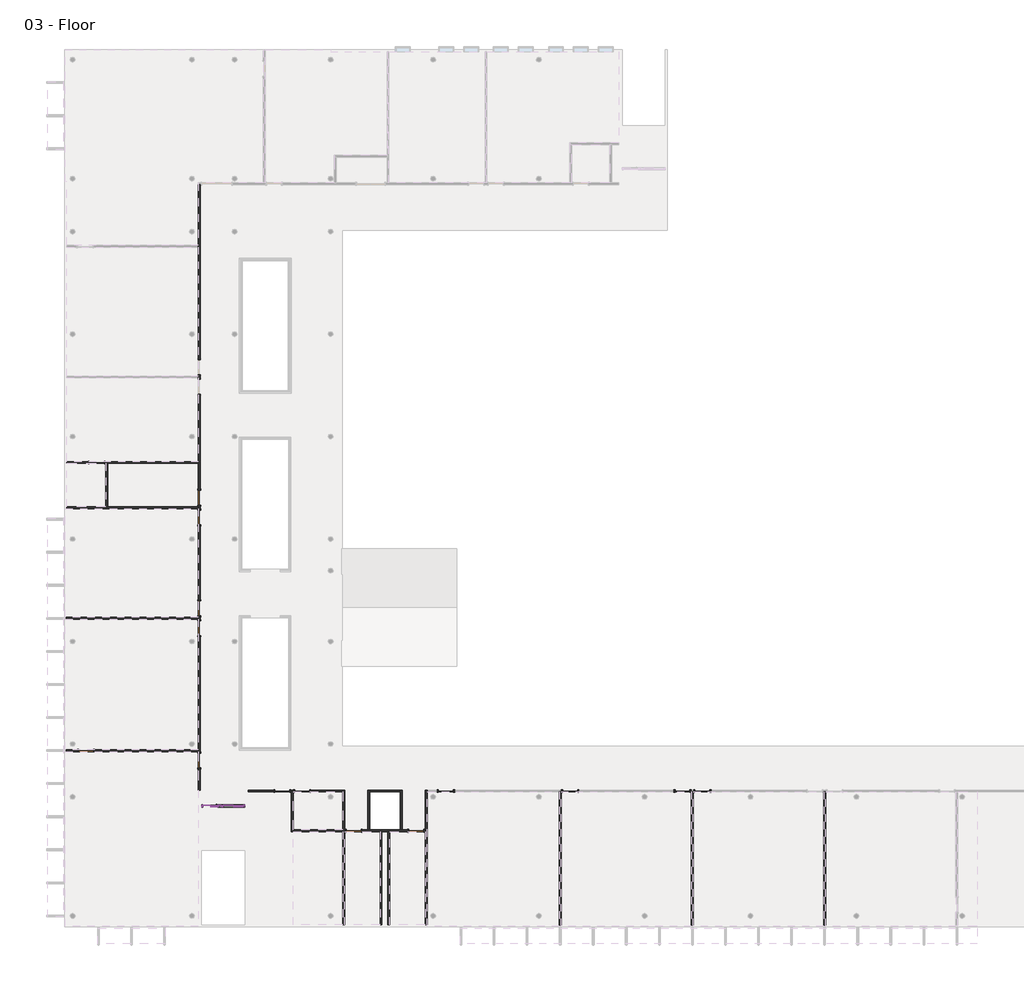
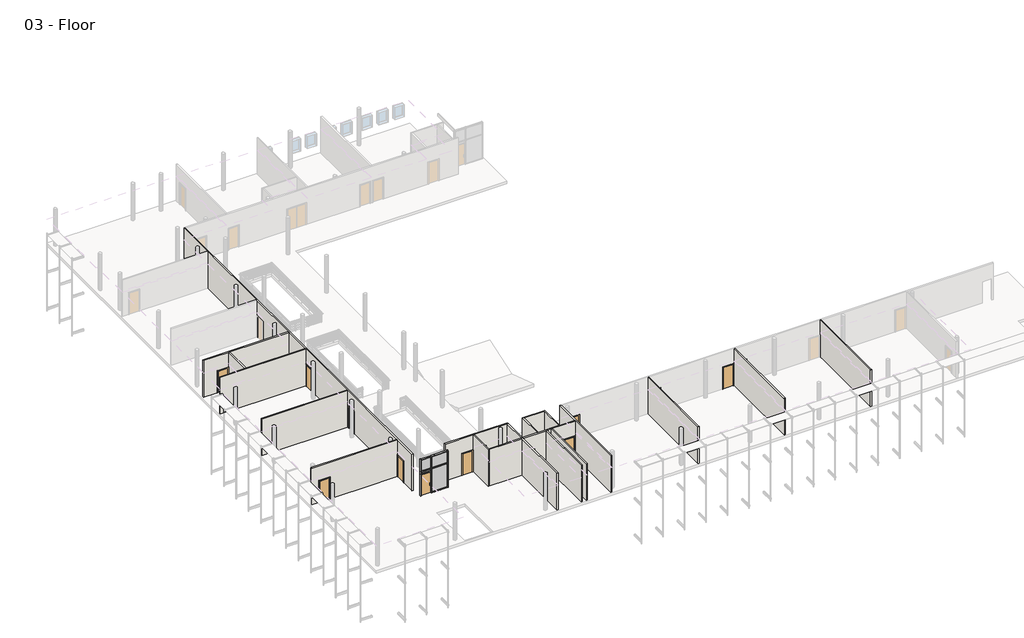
# One storey, part 1 of 4: 19 walls, 18 members, 16 doors, 4 plates.
"""IFC4 building model written with IfcOpenShell, lengths in millimetres."""

from ifc_helpers import new_model, si_unit, frame, origin, place, context, project, spatial, polyline, outline, extrude, faceted_brep, transform, mapped, element, save
from components import curtain_wall_sgl_glass_curtain_wall_sgl_glass_c2d4b377, door_305aa2a5, door_e5f9f3c4, member_2b49869a, member_75074519, member_6186cc23, member_5d67b9fc, member_c327c56d, member_a50b3cda, member_410c6227, member_73c23c35, member_59c53a79, member_c46932f7, member_40e8ea34, member_f5b3432e, system_panel_glazed_8dc8626f, system_panel_glazed_2e5f6ce9, system_panel_glazed_8d3e4aee, system_panel_glazed_fabe228a

model = new_model("IFC4")

# Units and contexts
model_context = context("Model", 3, world=origin())
ifc_project = project(units=[si_unit("LENGTHUNIT", "METRE", prefix="MILLI")], contexts=[model_context])

# Site, building, storey
site = spatial("IfcSite", under=ifc_project)
building = spatial("IfcBuilding", under=site)
storey = spatial("IfcBuildingStorey", under=building, Name="03 - Floor", Elevation=7315.2)

# Doors
placement = place(None, origin())
curtain_wall_sgl_glass_curtain_wall_sgl_glass_shape = curtain_wall_sgl_glass_curtain_wall_sgl_glass_c2d4b377(model_context)
element("IfcDoor", 1, ObjectType="Curtain Wall Sgl Glass : Curtain Wall Sgl Glass", at=placement, inside=storey, context=model_context, shape_type="MappedRepresentation", body=[
    mapped(curtain_wall_sgl_glass_curtain_wall_sgl_glass_shape, transform((9097.2957476, 7356.4, 7315.2), x_axis=(-1.0, 0.0, 0.0), y_axis=(0.0, -1.0, 0.0), z_axis=(0.0, 0.0, 1.0))),
])
door_shape = door_305aa2a5(model_context)
element("IfcDoor", 2, ObjectType="Single-Flush : 36\" x 84\"", at=placement, inside=storey, context=model_context, shape_type="MappedRepresentation", body=[
    mapped(door_shape, transform((21743.3207476, 5832.4, 7315.2), x_axis=(1.0, 0.0, 0.0), y_axis=(0.0, 1.0, 0.0), z_axis=(0.0, 0.0, 1.0))),
])
element("IfcDoor", 3, ObjectType="Single-Flush : 36\" x 84\"", at=placement, inside=storey, context=model_context, shape_type="MappedRepresentation", body=[
    mapped(door_shape, transform((2109.1207476, 28463.8, 7315.2), x_axis=(1.0, 0.0, 0.0), y_axis=(0.0, 1.0, 0.0), z_axis=(0.0, 0.0, 1.0))),
])
element("IfcDoor", 4, ObjectType="Single-Flush : 36\" x 84\"", at=placement, inside=storey, context=model_context, shape_type="MappedRepresentation", body=[
    mapped(door_shape, transform((8414.6707476, 26304.8, 7315.2), x_axis=(0.0, -1.0, 0.0), y_axis=(1.0, 0.0, 0.0), z_axis=(0.0, 0.0, 1.0))),
])
element("IfcDoor", 5, ObjectType="Single-Flush : 36\" x 84\"", at=placement, inside=storey, context=model_context, shape_type="MappedRepresentation", body=[
    mapped(door_shape, transform((8414.6707476, 19497.6, 7315.2), x_axis=(0.0, -1.0, 0.0), y_axis=(1.0, 0.0, 0.0), z_axis=(0.0, 0.0, 1.0))),
])
element("IfcDoor", 6, ObjectType="Single-Flush : 36\" x 84\"", at=placement, inside=storey, context=model_context, shape_type="MappedRepresentation", body=[
    mapped(door_shape, transform((13513.7207476, 8277.15, 7315.2), x_axis=(1.0, 0.0, 0.0), y_axis=(0.0, 1.0, 0.0), z_axis=(0.0, 0.0, 1.0))),
])
element("IfcDoor", 7, ObjectType="Single-Flush : 36\" x 84\"", at=placement, inside=storey, context=model_context, shape_type="MappedRepresentation", body=[
    mapped(door_shape, transform((38113.6207476, 8277.15, 7315.2), x_axis=(1.0, 0.0, 0.0), y_axis=(0.0, 1.0, 0.0), z_axis=(0.0, 0.0, 1.0))),
])
door_2_shape = door_e5f9f3c4(model_context)
element("IfcDoor", 8, ObjectType="Single-Flush : 36\" x 84\"", at=placement, inside=storey, context=model_context, shape_type="MappedRepresentation", body=[
    mapped(door_2_shape, transform((17907.9207476, 5832.4, 7315.2), x_axis=(-1.0, 0.0, 0.0), y_axis=(0.0, -1.0, 0.0), z_axis=(0.0, 0.0, 1.0))),
])
element("IfcDoor", 9, ObjectType="Single-Flush : 36\" x 84\"", at=placement, inside=storey, context=model_context, shape_type="MappedRepresentation", body=[
    mapped(door_2_shape, transform((8414.6707476, 25085.6, 7315.2), x_axis=(0.0, 1.0, 0.0), y_axis=(-1.0, 0.0, 0.0), z_axis=(0.0, 0.0, 1.0))),
])
element("IfcDoor", 10, ObjectType="Single-Flush : 36\" x 84\"", at=placement, inside=storey, context=model_context, shape_type="MappedRepresentation", body=[
    mapped(door_2_shape, transform((8414.6707476, 18278.4, 7315.2), x_axis=(0.0, 1.0, 0.0), y_axis=(-1.0, 0.0, 0.0), z_axis=(0.0, 0.0, 1.0))),
])
element("IfcDoor", 11, ObjectType="Single-Flush : 36\" x 84\"", at=placement, inside=storey, context=model_context, shape_type="MappedRepresentation", body=[
    mapped(door_2_shape, transform((1448.7207476, 10760.0, 7315.2), x_axis=(-1.0, 0.0, 0.0), y_axis=(0.0, -1.0, 0.0), z_axis=(0.0, 0.0, 1.0))),
])
element("IfcDoor", 12, ObjectType="Single-Flush : 36\" x 84\"", at=placement, inside=storey, context=model_context, shape_type="MappedRepresentation", body=[
    mapped(door_2_shape, transform((8414.6707476, 10150.4, 7315.2), x_axis=(0.0, 1.0, 0.0), y_axis=(-1.0, 0.0, 0.0), z_axis=(0.0, 0.0, 1.0))),
])
element("IfcDoor", 13, ObjectType="Single-Flush : 36\" x 84\"", at=placement, inside=storey, context=model_context, shape_type="MappedRepresentation", body=[
    mapped(door_2_shape, transform((14732.9207476, 8277.15, 7315.2), x_axis=(-1.0, 0.0, 0.0), y_axis=(0.0, -1.0, 0.0), z_axis=(0.0, 0.0, 1.0))),
])
element("IfcDoor", 14, ObjectType="Single-Flush : 36\" x 84\"", at=placement, inside=storey, context=model_context, shape_type="MappedRepresentation", body=[
    mapped(door_2_shape, transform((23572.1207476, 8277.15, 7315.2), x_axis=(-1.0, 0.0, 0.0), y_axis=(0.0, -1.0, 0.0), z_axis=(0.0, 0.0, 1.0))),
])
element("IfcDoor", 15, ObjectType="Single-Flush : 36\" x 84\"", at=placement, inside=storey, context=model_context, shape_type="MappedRepresentation", body=[
    mapped(door_2_shape, transform((31204.8207476, 8277.15, 7315.2), x_axis=(-1.0, 0.0, 0.0), y_axis=(0.0, -1.0, 0.0), z_axis=(0.0, 0.0, 1.0))),
])
element("IfcDoor", 16, ObjectType="Single-Flush : 36\" x 84\"", at=placement, inside=storey, context=model_context, shape_type="MappedRepresentation", body=[
    mapped(door_2_shape, transform((39332.8207476, 8277.15, 7315.2), x_axis=(-1.0, 0.0, 0.0), y_axis=(0.0, -1.0, 0.0), z_axis=(0.0, 0.0, 1.0))),
])

# Members
member_shape = member_2b49869a(model_context)
element("IfcMember", 17, ObjectType="Rectangular Mullion : 2.5\" x 5\" rectangular", at=placement, inside=storey, context=model_context, shape_type="MappedRepresentation", body=[
    mapped(member_shape, transform((9586.2457476, 7356.4, 9753.6), x_axis=(-1.0, 0.0, 0.0), y_axis=(0.0, 1.0, 0.0), z_axis=(0.0, 0.0, -1.0))),
])
member_2_shape = member_75074519(model_context)
element("IfcMember", 18, ObjectType="Rectangular Mullion : 2.5\" x 5\" rectangular", at=placement, inside=storey, context=model_context, shape_type="MappedRepresentation", body=[
    mapped(member_2_shape, transform((11194.3832476, 7356.4, 10972.8), x_axis=(1.0, 0.0, 0.0), y_axis=(0.0, 1.0, 0.0), z_axis=(0.0, 0.0, 1.0))),
])
element("IfcMember", 19, ObjectType="Rectangular Mullion : 2.5\" x 5\" rectangular", at=placement, inside=storey, context=model_context, shape_type="MappedRepresentation", body=[
    mapped(member_2_shape, transform((8576.5957476, 7356.4, 9753.6), x_axis=(-1.0, 0.0, 0.0), y_axis=(0.0, 1.0, 0.0), z_axis=(0.0, 0.0, -1.0))),
])
member_3_shape = member_6186cc23(model_context)
element("IfcMember", 20, ObjectType="Rectangular Mullion : 2.5\" x 5\" rectangular", at=placement, inside=storey, context=model_context, shape_type="MappedRepresentation", body=[
    mapped(member_3_shape, transform((9586.2457476, 7356.4, 7315.2), x_axis=(-1.0, 0.0, 0.0), y_axis=(0.0, 1.0, 0.0), z_axis=(0.0, 0.0, -1.0))),
])
member_4_shape = member_5d67b9fc(model_context)
element("IfcMember", 21, ObjectType="Rectangular Mullion : 2.5\" x 5\" rectangular", at=placement, inside=storey, context=model_context, shape_type="MappedRepresentation", body=[
    mapped(member_4_shape, transform((9586.2457476, 7356.4, 9480.55), x_axis=(-1.0, 0.0, 0.0), y_axis=(0.0, 1.0, 0.0), z_axis=(0.0, 0.0, -1.0))),
])
member_5_shape = member_c327c56d(model_context)
element("IfcMember", 22, ObjectType="Rectangular Mullion : 2.5\" x 5\" rectangular", at=placement, inside=storey, context=model_context, shape_type="MappedRepresentation", body=[
    mapped(member_5_shape, transform((11194.3832476, 7356.4, 9753.6), x_axis=(1.0, 0.0, 0.0), y_axis=(0.0, 1.0, 0.0), z_axis=(0.0, 0.0, 1.0))),
])
member_6_shape = member_a50b3cda(model_context)
element("IfcMember", 23, ObjectType="Rectangular Mullion : 2.5\" x 5\" rectangular", at=placement, inside=storey, context=model_context, shape_type="MappedRepresentation", body=[
    mapped(member_6_shape, transform((11194.3832476, 7356.4, 9480.55), x_axis=(1.0, 0.0, 0.0), y_axis=(0.0, 1.0, 0.0), z_axis=(0.0, 0.0, 1.0))),
])
member_7_shape = member_410c6227(model_context)
element("IfcMember", 24, ObjectType="Rectangular Mullion : 2.5\" x 5\" rectangular", at=placement, inside=storey, context=model_context, shape_type="MappedRepresentation", body=[
    mapped(member_7_shape, transform((8640.0957476, 7356.4, 9753.6), x_axis=(0.0, 0.0, 1.0), y_axis=(0.0, 1.0, 0.0), z_axis=(-1.0, 0.0, 0.0))),
])
element("IfcMember", 25, ObjectType="Rectangular Mullion : 2.5\" x 5\" rectangular", at=placement, inside=storey, context=model_context, shape_type="MappedRepresentation", body=[
    mapped(member_7_shape, transform((8640.0957476, 7356.4, 9480.55), x_axis=(0.0, 0.0, 1.0), y_axis=(0.0, 1.0, 0.0), z_axis=(-1.0, 0.0, 0.0))),
])
member_8_shape = member_73c23c35(model_context)
element("IfcMember", 26, ObjectType="Rectangular Mullion : 2.5\" x 5\" rectangular", at=placement, inside=storey, context=model_context, shape_type="MappedRepresentation", body=[
    mapped(member_8_shape, transform((8640.0957476, 7356.4, 10972.8), x_axis=(0.0, 0.0, 1.0), y_axis=(0.0, 1.0, 0.0), z_axis=(-1.0, 0.0, 0.0))),
])
element("IfcMember", 27, ObjectType="Rectangular Mullion : 2.5\" x 5\" rectangular", at=placement, inside=storey, context=model_context, shape_type="MappedRepresentation", body=[
    mapped(member_6_shape, transform((8576.5957476, 7356.4, 7315.2), x_axis=(-1.0, 0.0, 0.0), y_axis=(0.0, 1.0, 0.0), z_axis=(0.0, 0.0, -1.0))),
])
element("IfcMember", 28, ObjectType="Rectangular Mullion : 2.5\" x 5\" rectangular", at=placement, inside=storey, context=model_context, shape_type="MappedRepresentation", body=[
    mapped(member_5_shape, transform((8576.5957476, 7356.4, 9480.55), x_axis=(-1.0, 0.0, 0.0), y_axis=(0.0, 1.0, 0.0), z_axis=(0.0, 0.0, -1.0))),
])
member_9_shape = member_59c53a79(model_context)
element("IfcMember", 29, ObjectType="Rectangular Mullion : 2.5\" x 5\" rectangular", at=placement, inside=storey, context=model_context, shape_type="MappedRepresentation", body=[
    mapped(member_9_shape, transform((11130.8832476, 7356.4, 7315.2), x_axis=(0.0, 0.0, -1.0), y_axis=(0.0, 1.0, 0.0), z_axis=(1.0, 0.0, 0.0))),
])
member_10_shape = member_c46932f7(model_context)
element("IfcMember", 30, ObjectType="Rectangular Mullion : 2.5\" x 5\" rectangular", at=placement, inside=storey, context=model_context, shape_type="MappedRepresentation", body=[
    mapped(member_10_shape, transform((9885.4894976, 7356.4, 9753.6), x_axis=(0.0, 0.0, 1.0), y_axis=(0.0, 1.0, 0.0), z_axis=(-1.0, 0.0, 0.0))),
])
element("IfcMember", 31, ObjectType="Rectangular Mullion : 2.5\" x 5\" rectangular", at=placement, inside=storey, context=model_context, shape_type="MappedRepresentation", body=[
    mapped(member_9_shape, transform((9885.4894976, 7356.4, 10972.8), x_axis=(0.0, 0.0, 1.0), y_axis=(0.0, 1.0, 0.0), z_axis=(-1.0, 0.0, 0.0))),
])
member_11_shape = member_40e8ea34(model_context)
element("IfcMember", 32, ObjectType="Rectangular Mullion : 2.5\" x 5\" rectangular", at=placement, inside=storey, context=model_context, shape_type="MappedRepresentation", body=[
    mapped(member_11_shape, transform((9617.9957476, 7356.4, 9753.6), x_axis=(0.0, 0.0, 1.0), y_axis=(0.0, 1.0, 0.0), z_axis=(-1.0, 0.0, 0.0))),
])
member_12_shape = member_f5b3432e(model_context)
element("IfcMember", 33, ObjectType="Rectangular Mullion : 2.5\" x 5\" rectangular", at=placement, inside=storey, context=model_context, shape_type="MappedRepresentation", body=[
    mapped(member_12_shape, transform((9617.9957476, 7356.4, 10972.8), x_axis=(0.0, 0.0, 1.0), y_axis=(0.0, 1.0, 0.0), z_axis=(-1.0, 0.0, 0.0))),
])
element("IfcMember", 34, ObjectType="Rectangular Mullion : 2.5\" x 5\" rectangular", at=placement, inside=storey, context=model_context, shape_type="MappedRepresentation", body=[
    mapped(member_12_shape, transform((9885.4894976, 7356.4, 7315.2), x_axis=(0.0, 0.0, -1.0), y_axis=(0.0, 1.0, 0.0), z_axis=(1.0, 0.0, 0.0))),
])

# Plates
system_panel_glazed_shape = system_panel_glazed_8dc8626f(model_context)
element("IfcPlate", 35, ObjectType="System Panel : Glazed", at=placement, inside=storey, context=model_context, shape_type="MappedRepresentation", body=[
    mapped(system_panel_glazed_shape, transform((9097.2957476, 7356.4, 9512.3), x_axis=(-1.0, 0.0, 0.0), y_axis=(0.0, -1.0, 0.0), z_axis=(0.0, 0.0, 1.0))),
])
system_panel_glazed_2_shape = system_panel_glazed_2e5f6ce9(model_context)
element("IfcPlate", 36, ObjectType="System Panel : Glazed", at=placement, inside=storey, context=model_context, shape_type="MappedRepresentation", body=[
    mapped(system_panel_glazed_2_shape, transform((9097.2957476, 7356.4, 9785.35), x_axis=(-1.0, 0.0, 0.0), y_axis=(0.0, -1.0, 0.0), z_axis=(0.0, 0.0, 1.0))),
])
system_panel_glazed_3_shape = system_panel_glazed_8d3e4aee(model_context)
element("IfcPlate", 37, ObjectType="System Panel : Glazed", at=placement, inside=storey, context=model_context, shape_type="MappedRepresentation", body=[
    mapped(system_panel_glazed_3_shape, transform((10374.4394976, 7356.4, 7378.7), x_axis=(-1.0, 0.0, 0.0), y_axis=(0.0, -1.0, 0.0), z_axis=(0.0, 0.0, 1.0))),
])
system_panel_glazed_4_shape = system_panel_glazed_fabe228a(model_context)
element("IfcPlate", 38, ObjectType="System Panel : Glazed", at=placement, inside=storey, context=model_context, shape_type="MappedRepresentation", body=[
    mapped(system_panel_glazed_4_shape, transform((10374.4394976, 7356.4, 9785.35), x_axis=(-1.0, 0.0, 0.0), y_axis=(0.0, -1.0, 0.0), z_axis=(0.0, 0.0, 1.0))),
])

# Walls
element("IfcWall", 39, ObjectType="Typ. Partition Wall", at=placement, inside=storey, context=model_context, shape_type="Brep", body=[
    faceted_brep([(8357.5207476, 17821.2, 7315.2), (8357.5207476, 10817.15, 7315.2), (8357.5207476, 10702.85, 7315.2), (8357.5207476, 10607.6, 7315.2), (8357.5207476, 10607.6, 9448.8), (8357.5207476, 9693.2, 9448.8), (8357.5207476, 9693.2, 7315.2), (8357.5207476, 8334.3, 7315.2), (8357.5207476, 8334.3, 10972.8), (8357.5207476, 10702.85, 10972.8), (8357.5207476, 10817.15, 10972.8), (8357.5207476, 18830.85, 10972.8), (8357.5207476, 18945.15, 10972.8), (8357.5207476, 25638.05, 10972.8), (8357.5207476, 25752.35, 10972.8), (8357.5207476, 28406.65, 10972.8), (8357.5207476, 28520.95, 10972.8), (8357.5207476, 33664.45, 10972.8), (8357.5207476, 33778.75, 10972.8), (8357.5207476, 41690.85, 10972.8), (8357.5207476, 41805.15, 10972.8), (8357.5207476, 45545.3, 10972.8), (8357.5207476, 45545.3, 7315.2), (8357.5207476, 41805.15, 7315.2), (8357.5207476, 41690.85, 7315.2), (8357.5207476, 34788.4, 7315.2), (8357.5207476, 34788.4, 9448.8), (8357.5207476, 33874.0, 9448.8), (8357.5207476, 33874.0, 7315.2), (8357.5207476, 33778.75, 7315.2), (8357.5207476, 33664.45, 7315.2), (8357.5207476, 33569.2, 7315.2), (8357.5207476, 33569.2, 9448.8), (8357.5207476, 32654.8, 9448.8), (8357.5207476, 32654.8, 7315.2), (8357.5207476, 28520.95, 7315.2), (8357.5207476, 28406.65, 7315.2), (8357.5207476, 26762.0, 7315.2), (8357.5207476, 26762.0, 9448.8), (8357.5207476, 25847.6, 9448.8), (8357.5207476, 25847.6, 7315.2), (8357.5207476, 25752.35, 7315.2), (8357.5207476, 25638.05, 7315.2), (8357.5207476, 25542.8, 7315.2), (8357.5207476, 25542.8, 9448.8), (8357.5207476, 24628.4, 9448.8), (8357.5207476, 24628.4, 7315.2), (8357.5207476, 19954.8, 7315.2), (8357.5207476, 19954.8, 9448.8), (8357.5207476, 19040.4, 9448.8), (8357.5207476, 19040.4, 7315.2), (8357.5207476, 18945.15, 7315.2), (8357.5207476, 18830.85, 7315.2), (8357.5207476, 18735.6, 7315.2), (8357.5207476, 18735.6, 9448.8), (8357.5207476, 17821.2, 9448.8), (8471.8207476, 10607.6, 9448.8), (8471.8207476, 10607.6, 7315.2), (8471.8207476, 17821.2, 7315.2), (8471.8207476, 17821.2, 9448.8), (8471.8207476, 18735.6, 9448.8), (8471.8207476, 18735.6, 7315.2), (8471.8207476, 19040.4, 7315.2), (8471.8207476, 19040.4, 9448.8), (8471.8207476, 19954.8, 9448.8), (8471.8207476, 19954.8, 7315.2), (8471.8207476, 24628.4, 7315.2), (8471.8207476, 24628.4, 9448.8), (8471.8207476, 25542.8, 9448.8), (8471.8207476, 25542.8, 7315.2), (8471.8207476, 25847.6, 7315.2), (8471.8207476, 25847.6, 9448.8), (8471.8207476, 26762.0, 9448.8), (8471.8207476, 26762.0, 7315.2), (8471.8207476, 32654.8, 7315.2), (8471.8207476, 32654.8, 9448.8), (8471.8207476, 33569.2, 9448.8), (8471.8207476, 33569.2, 7315.2), (8471.8207476, 33874.0, 7315.2), (8471.8207476, 33874.0, 9448.8), (8471.8207476, 34788.4, 9448.8), (8471.8207476, 34788.4, 7315.2), (8471.8207476, 45545.3, 7315.2), (8471.8207476, 45545.3, 10972.8), (8471.8207476, 8334.3, 10972.8), (8471.8207476, 8334.3, 7315.2), (8471.8207476, 9693.2, 7315.2), (8471.8207476, 9693.2, 9448.8)], [[[0, 1, 2, 3, 4, 5, 6, 7, 8, 9, 10, 11, 12, 13, 14, 15, 16, 17, 18, 19, 20, 21, 22, 23, 24, 25, 26, 27, 28, 29, 30, 31, 32, 33, 34, 35, 36, 37, 38, 39, 40, 41, 42, 43, 44, 45, 46, 47, 48, 49, 50, 51, 52, 53, 54, 55]], [[56, 57, 58, 59, 60, 61, 62, 63, 64, 65, 66, 67, 68, 69, 70, 71, 72, 73, 74, 75, 76, 77, 78, 79, 80, 81, 82, 83, 84, 85, 86, 87]], [[78, 77, 31, 30, 29, 28]], [[25, 24, 23, 22, 82, 81]], [[70, 69, 43, 42, 41, 40]], [[37, 36, 35, 34, 74, 73]], [[62, 61, 53, 52, 51, 50]], [[47, 46, 66, 65]], [[58, 57, 3, 2, 1, 0]], [[86, 85, 7, 6]], [[8, 7, 85, 84]], [[21, 20, 19, 18, 17, 16, 15, 14, 13, 12, 11, 10, 9, 8, 84, 83]], [[22, 21, 83, 82]], [[79, 78, 28, 27]], [[80, 79, 27, 26]], [[81, 80, 26, 25]], [[32, 31, 77, 76]], [[33, 32, 76, 75]], [[34, 33, 75, 74]], [[71, 70, 40, 39]], [[72, 71, 39, 38]], [[73, 72, 38, 37]], [[44, 43, 69, 68]], [[45, 44, 68, 67]], [[46, 45, 67, 66]], [[63, 62, 50, 49]], [[64, 63, 49, 48]], [[65, 64, 48, 47]], [[54, 53, 61, 60]], [[55, 54, 60, 59]], [[0, 55, 59, 58]], [[4, 3, 57, 56]], [[5, 4, 56, 87]], [[6, 5, 87, 86]]]),
])
element("IfcWall", 40, ObjectType="Typ. Partition Wall", at=placement, inside=storey, context=model_context, shape_type="Brep", body=[
    faceted_brep([(13970.9207476, 8220.0, 7315.2), (14066.1707476, 8220.0, 7315.2), (14180.4707476, 8220.0, 7315.2), (14275.7207476, 8220.0, 7315.2), (14275.7207476, 8220.0, 9448.8), (15190.1207476, 8220.0, 9448.8), (15190.1207476, 8220.0, 7315.2), (17241.1707476, 8220.0, 7315.2), (17355.4707476, 8220.0, 7315.2), (17355.4707476, 8220.0, 10972.8), (17241.1707476, 8220.0, 10972.8), (14180.4707476, 8220.0, 10972.8), (14066.1707476, 8220.0, 10972.8), (11413.4582476, 8220.0, 10972.8), (11413.4582476, 8220.0, 7315.2), (13056.5207476, 8220.0, 7315.2), (13056.5207476, 8220.0, 9448.8), (13970.9207476, 8220.0, 9448.8), (14275.7207476, 8334.3, 9448.8), (14275.7207476, 8334.3, 7315.2), (13970.9207476, 8334.3, 7315.2), (13970.9207476, 8334.3, 9448.8), (13056.5207476, 8334.3, 9448.8), (13056.5207476, 8334.3, 7315.2), (11413.4582476, 8334.3, 7315.2), (11413.4582476, 8334.3, 10972.8), (17355.4707476, 8334.3, 10972.8), (17355.4707476, 8334.3, 7315.2), (15190.1207476, 8334.3, 7315.2), (15190.1207476, 8334.3, 9448.8)], [[[0, 1, 2, 3, 4, 5, 6, 7, 8, 9, 10, 11, 12, 13, 14, 15, 16, 17]], [[18, 19, 20, 21, 22, 23, 24, 25, 26, 27, 28, 29]], [[20, 19, 3, 2, 1, 0]], [[15, 14, 24, 23]], [[28, 27, 8, 7, 6]], [[13, 12, 11, 10, 9, 26, 25]], [[14, 13, 25, 24]], [[9, 8, 27, 26]], [[21, 20, 0, 17]], [[22, 21, 17, 16]], [[23, 22, 16, 15]], [[4, 3, 19, 18]], [[5, 4, 18, 29]], [[6, 5, 29, 28]]]),
])
element("IfcWall", 41, ObjectType="Typ. Partition Wall", at=placement, inside=storey, context=model_context, shape_type="Brep", body=[
    faceted_brep([(14180.4707476, 5775.25, 7315.2), (14180.4707476, 5889.55, 7315.2), (14180.4707476, 8220.0, 7315.2), (14180.4707476, 8220.0, 10972.8), (14180.4707476, 5889.55, 10972.8), (14180.4707476, 5775.25, 10972.8), (14066.1707476, 5775.25, 7315.2), (14066.1707476, 5775.25, 10972.8), (14066.1707476, 8220.0, 10972.8), (14066.1707476, 8220.0, 7315.2)], [[[0, 1, 2, 3, 4, 5]], [[6, 7, 8, 9]], [[2, 1, 0, 6, 9]], [[5, 4, 3, 8, 7]], [[0, 5, 7, 6]], [[3, 2, 9, 8]]]),
])
element("IfcWall", 42, ObjectType="Typ. Partition Wall", at=placement, inside=storey, context=model_context, shape_type="Brep", body=[
    faceted_brep([(17355.4707476, 53.9, 7315.2), (17355.4707476, 5775.25, 7315.2), (17355.4707476, 5889.55, 7315.2), (17355.4707476, 8220.0, 7315.2), (17355.4707476, 8220.0, 10972.8), (17355.4707476, 5889.55, 10972.8), (17355.4707476, 5775.25, 10972.8), (17355.4707476, 53.9, 10972.8), (17241.1707476, 53.9, 7315.2), (17241.1707476, 53.9, 10972.8), (17241.1707476, 5775.25, 10972.8), (17241.1707476, 5889.55, 10972.8), (17241.1707476, 8220.0, 10972.8), (17241.1707476, 8220.0, 7315.2), (17241.1707476, 5889.55, 7315.2), (17241.1707476, 5775.25, 7315.2)], [[[0, 1, 2, 3, 4, 5, 6, 7]], [[8, 9, 10, 11, 12, 13, 14, 15]], [[3, 2, 1, 0, 8, 15, 14, 13]], [[7, 6, 5, 4, 12, 11, 10, 9]], [[0, 7, 9, 8]], [[4, 3, 13, 12]]]),
])
element("IfcWall", 43, ObjectType="Typ. Partition Wall", at=placement, inside=storey, context=model_context, shape_type="Brep", body=[
    faceted_brep([(22308.4707476, 5775.25, 7315.2), (22308.4707476, 5775.25, 10972.8), (20124.0707476, 5775.25, 10972.8), (20009.7707476, 5775.25, 10972.8), (19641.4707476, 5775.25, 10972.8), (19527.1707476, 5775.25, 10972.8), (17355.4707476, 5775.25, 10972.8), (17355.4707476, 5775.25, 7315.2), (17450.7207476, 5775.25, 7315.2), (17450.7207476, 5775.25, 9448.8), (18365.1207476, 5775.25, 9448.8), (18365.1207476, 5775.25, 7315.2), (19527.1707476, 5775.25, 7315.2), (19641.4707476, 5775.25, 7315.2), (20009.7707476, 5775.25, 7315.2), (20124.0707476, 5775.25, 7315.2), (21286.1207476, 5775.25, 7315.2), (21286.1207476, 5775.25, 9448.8), (22200.5207476, 5775.25, 9448.8), (22200.5207476, 5775.25, 7315.2), (22308.4707476, 5889.55, 10972.8), (22308.4707476, 5889.55, 7315.2), (22200.5207476, 5889.55, 7315.2), (22200.5207476, 5889.55, 9448.8), (21286.1207476, 5889.55, 9448.8), (21286.1207476, 5889.55, 7315.2), (20886.0707476, 5889.55, 7315.2), (20771.7707476, 5889.55, 7315.2), (18879.4707476, 5889.55, 7315.2), (18765.1707476, 5889.55, 7315.2), (18365.1207476, 5889.55, 7315.2), (18365.1207476, 5889.55, 9448.8), (17450.7207476, 5889.55, 9448.8), (17450.7207476, 5889.55, 7315.2), (17355.4707476, 5889.55, 7315.2), (17355.4707476, 5889.55, 10972.8), (18765.1707476, 5889.55, 10972.8), (18879.4707476, 5889.55, 10972.8), (20771.7707476, 5889.55, 10972.8), (20886.0707476, 5889.55, 10972.8)], [[[0, 1, 2, 3, 4, 5, 6, 7, 8, 9, 10, 11, 12, 13, 14, 15, 16, 17, 18, 19]], [[20, 21, 22, 23, 24, 25, 26, 27, 28, 29, 30, 31, 32, 33, 34, 35, 36, 37, 38, 39]], [[21, 0, 19, 22]], [[33, 8, 7, 34]], [[11, 30, 29, 28, 27, 26, 25, 16, 15, 14, 13, 12]], [[1, 20, 39, 38, 37, 36, 35, 6, 5, 4, 3, 2]], [[1, 0, 21, 20]], [[9, 8, 33, 32]], [[10, 9, 32, 31]], [[11, 10, 31, 30]], [[23, 22, 19, 18]], [[24, 23, 18, 17]], [[25, 24, 17, 16]], [[7, 6, 35, 34]]]),
    faceted_brep([(14180.4707476, 5775.25, 10972.8), (14180.4707476, 5775.25, 7315.2), (17241.1707476, 5775.25, 7315.2), (17241.1707476, 5775.25, 10972.8), (14180.4707476, 5889.55, 7315.2), (14180.4707476, 5889.55, 10972.8), (17241.1707476, 5889.55, 10972.8), (17241.1707476, 5889.55, 7315.2)], [[[0, 1, 2, 3]], [[4, 5, 6, 7]], [[1, 4, 7, 2]], [[5, 0, 3, 6]], [[1, 0, 5, 4]], [[3, 2, 7, 6]]]),
])
element("IfcWall", 44, ObjectType="Typ. Partition Wall", at=placement, inside=storey, context=model_context, shape_type="SweptSolid", body=[
    extrude(outline(polyline([(19527.1707476, 53.9), (19527.1707476, 5775.25), (19641.4707476, 5775.25), (19641.4707476, 53.9), (19527.1707476, 53.9)])), frame((0.0, 0.0, 7315.2), z_axis=(0.0, 0.0, 1.0), x_axis=(1.0, 0.0, 0.0)), (0.0, 0.0, 1.0), 3657.6),
])
element("IfcWall", 45, ObjectType="Typ. Partition Wall", at=placement, inside=storey, context=model_context, shape_type="SweptSolid", body=[
    extrude(outline(polyline([(20009.7707476, 53.9), (20009.7707476, 5775.25), (20124.0707476, 5775.25), (20124.0707476, 53.9), (20009.7707476, 53.9)])), frame((0.0, 0.0, 7315.2), z_axis=(0.0, 0.0, 1.0), x_axis=(1.0, 0.0, 0.0)), (0.0, 0.0, 1.0), 3657.6),
])
element("IfcWall", 46, ObjectType="Typ. Partition Wall", at=placement, inside=storey, context=model_context, shape_type="Brep", body=[
    faceted_brep([(18879.4707476, 5889.55, 7315.2), (18879.4707476, 8220.0, 7315.2), (18879.4707476, 8334.3, 7315.2), (18879.4707476, 8334.3, 10972.8), (18879.4707476, 8220.0, 10972.8), (18879.4707476, 5889.55, 10972.8), (18765.1707476, 5889.55, 7315.2), (18765.1707476, 5889.55, 10972.8), (18765.1707476, 8334.3, 10972.8), (18765.1707476, 8334.3, 7315.2)], [[[0, 1, 2, 3, 4, 5]], [[6, 7, 8, 9]], [[2, 1, 0, 6, 9]], [[5, 4, 3, 8, 7]], [[3, 2, 9, 8]], [[0, 5, 7, 6]]]),
])
element("IfcWall", 47, ObjectType="Typ. Partition Wall", at=placement, inside=storey, context=model_context, shape_type="Brep", body=[
    faceted_brep([(20886.0707476, 5889.55, 7315.2), (20886.0707476, 8334.3, 7315.2), (20886.0707476, 8334.3, 10972.8), (20886.0707476, 5889.55, 10972.8), (20771.7707476, 5889.55, 7315.2), (20771.7707476, 5889.55, 10972.8), (20771.7707476, 8220.0, 10972.8), (20771.7707476, 8334.3, 10972.8), (20771.7707476, 8334.3, 7315.2), (20771.7707476, 8220.0, 7315.2)], [[[0, 1, 2, 3]], [[4, 5, 6, 7, 8, 9]], [[1, 0, 4, 9, 8]], [[3, 2, 7, 6, 5]], [[2, 1, 8, 7]], [[0, 3, 5, 4]]]),
])
element("IfcWall", 48, ObjectType="Typ. Partition Wall", at=placement, inside=storey, context=model_context, shape_type="Brep", body=[
    faceted_brep([(22422.7707476, 53.9, 7315.2), (22422.7707476, 8220.0, 7315.2), (22422.7707476, 8334.3, 7315.2), (22422.7707476, 8334.3, 10972.8), (22422.7707476, 8220.0, 10972.8), (22422.7707476, 53.9, 10972.8), (22308.4707476, 53.9, 7315.2), (22308.4707476, 53.9, 10972.8), (22308.4707476, 5775.25, 10972.8), (22308.4707476, 5889.55, 10972.8), (22308.4707476, 8334.3, 10972.8), (22308.4707476, 8334.3, 7315.2), (22308.4707476, 5889.55, 7315.2), (22308.4707476, 5775.25, 7315.2)], [[[0, 1, 2, 3, 4, 5]], [[6, 7, 8, 9, 10, 11, 12, 13]], [[2, 1, 0, 6, 13, 12, 11]], [[5, 4, 3, 10, 9, 8, 7]], [[3, 2, 11, 10]], [[0, 5, 7, 6]]]),
])
element("IfcWall", 49, ObjectType="Typ. Partition Wall", at=placement, inside=storey, context=model_context, shape_type="SweptSolid", body=[
    extrude(outline(polyline([(20771.7707476, 8220.0), (18879.4707476, 8220.0), (18879.4707476, 8334.3), (20771.7707476, 8334.3), (20771.7707476, 8220.0)])), frame((0.0, 0.0, 7315.2), z_axis=(0.0, 0.0, 1.0), x_axis=(1.0, 0.0, 0.0)), (0.0, 0.0, 1.0), 3657.6),
])
element("IfcWall", 50, ObjectType="Typ. Partition Wall", at=placement, inside=storey, context=model_context, shape_type="Brep", body=[
    faceted_brep([(280.3207476, 25638.05, 7315.2), (8357.5207476, 25638.05, 7315.2), (8357.5207476, 25638.05, 10972.8), (280.3207476, 25638.05, 10972.8), (280.3207476, 25752.35, 7315.2), (280.3207476, 25752.35, 10972.8), (2661.5707476, 25752.35, 10972.8), (2775.8707476, 25752.35, 10972.8), (8357.5207476, 25752.35, 10972.8), (8357.5207476, 25752.35, 7315.2), (2775.8707476, 25752.35, 7315.2), (2661.5707476, 25752.35, 7315.2)], [[[0, 1, 2, 3]], [[4, 5, 6, 7, 8, 9, 10, 11]], [[1, 0, 4, 11, 10, 9]], [[0, 3, 5, 4]], [[2, 1, 9, 8]], [[3, 2, 8, 7, 6, 5]]]),
])
element("IfcWall", 51, ObjectType="Typ. Partition Wall", at=placement, inside=storey, context=model_context, shape_type="SweptSolid", body=[
    extrude(outline(polyline([(7315.2, 242.2207476), (7315.2, 8357.5207476), (10972.8, 8357.5207476), (10972.8, 280.3207476), (10972.8, 242.2207476), (7315.2, 242.2207476)])), frame((0.0, 18830.85, 0.0), z_axis=(0.0, 1.0, 0.0), x_axis=(0.0, 0.0, 1.0)), (0.0, 0.0, 1.0), 114.3),
])
element("IfcWall", 52, ObjectType="Typ. Partition Wall", at=placement, inside=storey, context=model_context, shape_type="SweptSolid", body=[
    extrude(outline(polyline([(7315.2, 242.2207476), (7315.2, 991.5207476), (9448.8, 991.5207476), (9448.8, 1905.9207476), (7315.2, 1905.9207476), (7315.2, 8357.5207476), (10972.8, 8357.5207476), (10972.8, 280.3207476), (10972.8, 242.2207476), (7315.2, 242.2207476)])), frame((0.0, 10702.85, 0.0), z_axis=(0.0, 1.0, 0.0), x_axis=(0.0, 0.0, 1.0)), (0.0, 0.0, 1.0), 114.3),
])
element("IfcWall", 53, ObjectType="Typ. Partition Wall", at=placement, inside=storey, context=model_context, shape_type="Brep", body=[
    faceted_brep([(2566.3207476, 28406.65, 9448.8), (2566.3207476, 28406.65, 7315.2), (2661.5707476, 28406.65, 7315.2), (2775.8707476, 28406.65, 7315.2), (8357.5207476, 28406.65, 7315.2), (8357.5207476, 28406.65, 10972.8), (2775.8707476, 28406.65, 10972.8), (2661.5707476, 28406.65, 10972.8), (280.3207476, 28406.65, 10972.8), (280.3207476, 28406.65, 7315.2), (1651.9207476, 28406.65, 7315.2), (1651.9207476, 28406.65, 9448.8), (8357.5207476, 28520.95, 7315.2), (2566.3207476, 28520.95, 7315.2), (2566.3207476, 28520.95, 9448.8), (1651.9207476, 28520.95, 9448.8), (1651.9207476, 28520.95, 7315.2), (280.3207476, 28520.95, 7315.2), (280.3207476, 28520.95, 10972.8), (8357.5207476, 28520.95, 10972.8)], [[[0, 1, 2, 3, 4, 5, 6, 7, 8, 9, 10, 11]], [[12, 13, 14, 15, 16, 17, 18, 19]], [[4, 3, 2, 1, 13, 12]], [[10, 9, 17, 16]], [[9, 8, 18, 17]], [[8, 7, 6, 5, 19, 18]], [[5, 4, 12, 19]], [[14, 13, 1, 0]], [[15, 14, 0, 11]], [[16, 15, 11, 10]]]),
])
element("IfcWall", 54, ObjectType="Typ. Partition Wall", at=placement, inside=storey, context=model_context, shape_type="SweptSolid", body=[
    extrude(outline(polyline([(2775.8707476, 28406.65), (2775.8707476, 25752.35), (2661.5707476, 25752.35), (2661.5707476, 28406.65), (2775.8707476, 28406.65)])), frame((0.0, 0.0, 7315.2), z_axis=(0.0, 0.0, 1.0), x_axis=(1.0, 0.0, 0.0)), (0.0, 0.0, 1.0), 3657.6),
])
element("IfcWall", 55, ObjectType="Typ. Partition Wall", at=placement, inside=storey, context=model_context, shape_type="SweptSolid", body=[
    extrude(outline(polyline([(15.8, 7315.2), (15.8, 10972.8), (53.9, 10972.8), (8220.0, 10972.8), (8220.0, 7315.2), (15.8, 7315.2)])), frame((46794.0707476, 0.0, 0.0), z_axis=(1.0, 0.0, 0.0), x_axis=(0.0, 1.0, 0.0)), (0.0, 0.0, 1.0), 114.3),
])
element("IfcWall", 56, ObjectType="Typ. Partition Wall", at=placement, inside=storey, context=model_context, shape_type="SweptSolid", body=[
    extrude(outline(polyline([(15.8, 7315.2), (15.8, 10972.8), (53.9, 10972.8), (8220.0, 10972.8), (8220.0, 7315.2), (15.8, 7315.2)])), frame((38666.0707476, 0.0, 0.0), z_axis=(1.0, 0.0, 0.0), x_axis=(0.0, 1.0, 0.0)), (0.0, 0.0, 1.0), 114.3),
])
element("IfcWall", 57, ObjectType="Typ. Partition Wall", at=placement, inside=storey, context=model_context, shape_type="SweptSolid", body=[
    extrude(outline(polyline([(15.8, 7315.2), (15.8, 10972.8), (53.9, 10972.8), (8220.0, 10972.8), (8220.0, 7315.2), (15.8, 7315.2)])), frame((30538.0707476, 0.0, 0.0), z_axis=(1.0, 0.0, 0.0), x_axis=(0.0, 1.0, 0.0)), (0.0, 0.0, 1.0), 114.3),
])

save(model, "model.ifc")
